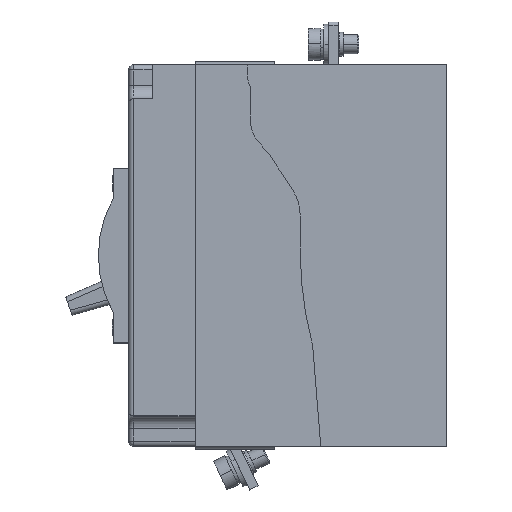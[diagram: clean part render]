
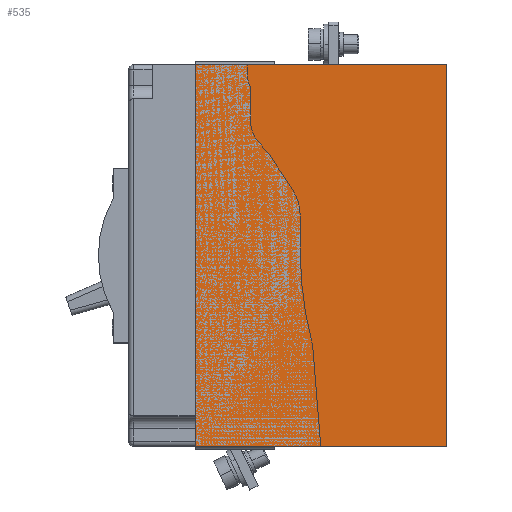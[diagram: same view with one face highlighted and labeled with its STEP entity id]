
A CAD part, top view. The second image highlights one B-rep face of the part: STEP entity #535.
In plain terms, the highlighted planar face has unit normal (0, 0, 1).
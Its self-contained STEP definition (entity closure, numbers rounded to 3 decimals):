
#473 = ORIENTED_EDGE ( 'NONE', *, *, #474, .T. ) ;
#474 = EDGE_CURVE ( 'NONE', #629, #475, #8459, .T. ) ;
#475 = VERTEX_POINT ( 'NONE', #8378 ) ;
#476 = ORIENTED_EDGE ( 'NONE', *, *, #477, .T. ) ;
#477 = EDGE_CURVE ( 'NONE', #475, #625, #8376, .T. ) ;
#535 = ADVANCED_FACE ( 'NONE', ( #4659 ), #4561, .T. ) ;
#536 = EDGE_LOOP ( 'NONE', ( #537, #473, #476, #626 ) ) ;
#537 = ORIENTED_EDGE ( 'NONE', *, *, #538, .T. ) ;
#538 = EDGE_CURVE ( 'NONE', #539, #629, #4565, .T. ) ;
#539 = VERTEX_POINT ( 'NONE', #4634 ) ;
#625 = VERTEX_POINT ( 'NONE', #4937 ) ;
#626 = ORIENTED_EDGE ( 'NONE', *, *, #627, .T. ) ;
#627 = EDGE_CURVE ( 'NONE', #625, #539, #4856, .T. ) ;
#629 = VERTEX_POINT ( 'NONE', #4965 ) ;
#4561 = PLANE ( 'NONE',  #4569 ) ;
#4563 = DIRECTION ( 'NONE',  ( 0., -1., 0. ) ) ;
#4564 = CARTESIAN_POINT ( 'NONE',  ( -129.458, 72.287, 17.5 ) ) ;
#4565 = LINE ( 'NONE', #4564, #4635 ) ;
#4566 = DIRECTION ( 'NONE',  ( 1., 0., 0. ) ) ;
#4567 = DIRECTION ( 'NONE',  ( 0., 0., 1. ) ) ;
#4568 = CARTESIAN_POINT ( 'NONE',  ( -129.458, 72.287, 17.5 ) ) ;
#4569 = AXIS2_PLACEMENT_3D ( 'NONE', #4568, #4567, #4566 ) ;
#4634 = CARTESIAN_POINT ( 'NONE',  ( -129.458, 72.287, 17.5 ) ) ;
#4635 = VECTOR ( 'NONE', #4563, 1000. ) ;
#4659 = FACE_OUTER_BOUND ( 'NONE', #536, .T. ) ;
#4817 = DIRECTION ( 'NONE',  ( -1., 0., 0. ) ) ;
#4818 = VECTOR ( 'NONE', #4817, 1000. ) ;
#4819 = CARTESIAN_POINT ( 'NONE',  ( -129.458, 72.287, 17.5 ) ) ;
#4856 = LINE ( 'NONE', #4819, #4818 ) ;
#4937 = CARTESIAN_POINT ( 'NONE',  ( -50.458, 72.287, 17.5 ) ) ;
#4965 = CARTESIAN_POINT ( 'NONE',  ( -129.458, -47.713, 17.5 ) ) ;
#8373 = DIRECTION ( 'NONE',  ( 0., 1., 0. ) ) ;
#8374 = VECTOR ( 'NONE', #8373, 1000. ) ;
#8375 = CARTESIAN_POINT ( 'NONE',  ( -50.458, 72.287, 17.5 ) ) ;
#8376 = LINE ( 'NONE', #8375, #8374 ) ;
#8378 = CARTESIAN_POINT ( 'NONE',  ( -50.458, -47.713, 17.5 ) ) ;
#8379 = DIRECTION ( 'NONE',  ( 1., 0., 0. ) ) ;
#8457 = VECTOR ( 'NONE', #8379, 1000. ) ;
#8458 = CARTESIAN_POINT ( 'NONE',  ( -129.458, -47.713, 17.5 ) ) ;
#8459 = LINE ( 'NONE', #8458, #8457 ) ;
